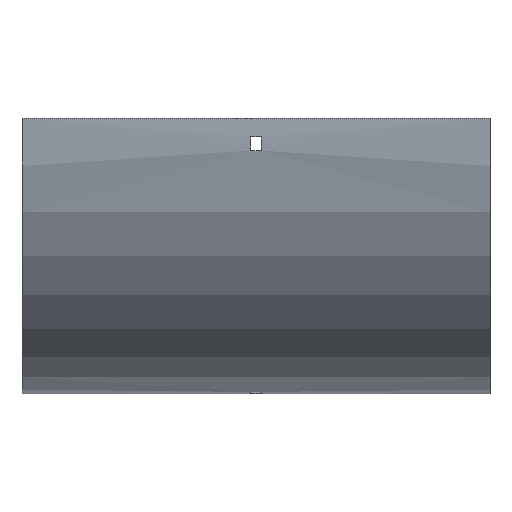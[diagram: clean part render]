
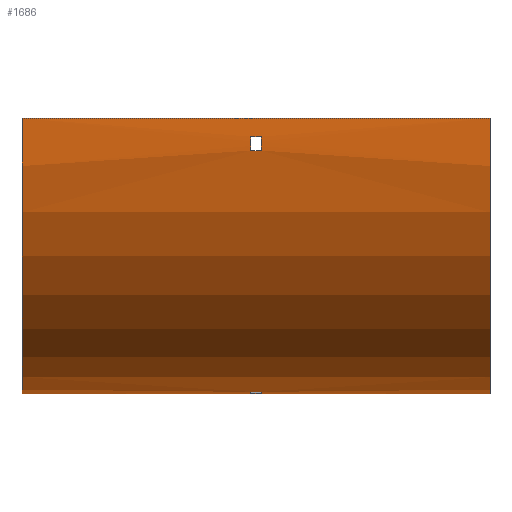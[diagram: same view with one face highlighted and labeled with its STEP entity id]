
A CAD part, front view. The second image highlights one B-rep face of the part: STEP entity #1686.
In plain terms, the highlighted cylindrical face has radius 179 mm (diameter 358 mm), a partial arc.
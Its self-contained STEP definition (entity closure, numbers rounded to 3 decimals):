
#15 = EDGE_CURVE ( 'NONE', #1635, #1401, #1073, .T. ) ;
#23 = CYLINDRICAL_SURFACE ( 'NONE', #1195, 179. ) ;
#27 = DIRECTION ( 'NONE',  ( 1., 0., 0. ) ) ;
#40 = EDGE_CURVE ( 'NONE', #185, #1682, #785, .T. ) ;
#56 = VECTOR ( 'NONE', #1200, 1000. ) ;
#93 = DIRECTION ( 'NONE',  ( -1., 0., 0. ) ) ;
#104 = CARTESIAN_POINT ( 'NONE',  ( -152., 100., 0. ) ) ;
#166 = EDGE_CURVE ( 'NONE', #1567, #539, #811, .T. ) ;
#173 = EDGE_LOOP ( 'NONE', ( #213, #388, #393, #1592 ) ) ;
#185 = VERTEX_POINT ( 'NONE', #1476 ) ;
#213 = ORIENTED_EDGE ( 'NONE', *, *, #1559, .F. ) ;
#236 = ORIENTED_EDGE ( 'NONE', *, *, #40, .T. ) ;
#240 = LINE ( 'NONE', #507, #268 ) ;
#249 = CARTESIAN_POINT ( 'NONE',  ( 152., 100., 0. ) ) ;
#252 = EDGE_CURVE ( 'NONE', #491, #919, #240, .T. ) ;
#264 = CARTESIAN_POINT ( 'NONE',  ( 3.25, 100., 0. ) ) ;
#268 = VECTOR ( 'NONE', #1137, 1000. ) ;
#280 = LINE ( 'NONE', #564, #56 ) ;
#294 = VECTOR ( 'NONE', #1599, 1000. ) ;
#308 = DIRECTION ( 'NONE',  ( 0., 0., 1. ) ) ;
#336 = EDGE_LOOP ( 'NONE', ( #1406, #891, #1658, #236 ) ) ;
#337 = VERTEX_POINT ( 'NONE', #1542 ) ;
#347 = DIRECTION ( 'NONE',  ( 0., 0., -1. ) ) ;
#349 = DIRECTION ( 'NONE',  ( 0., 0., 1. ) ) ;
#388 = ORIENTED_EDGE ( 'NONE', *, *, #15, .F. ) ;
#392 = LINE ( 'NONE', #1436, #1114 ) ;
#393 = ORIENTED_EDGE ( 'NONE', *, *, #647, .F. ) ;
#396 = CARTESIAN_POINT ( 'NONE',  ( 152., 79., -177.764 ) ) ;
#412 = ORIENTED_EDGE ( 'NONE', *, *, #753, .T. ) ;
#413 = DIRECTION ( 'NONE',  ( 0., 1., 0. ) ) ;
#416 = DIRECTION ( 'NONE',  ( 0., 0., 1. ) ) ;
#450 = EDGE_CURVE ( 'NONE', #337, #1183, #1280, .T. ) ;
#452 = CARTESIAN_POINT ( 'NONE',  ( 3.25, 79., -177.764 ) ) ;
#491 = VERTEX_POINT ( 'NONE', #565 ) ;
#507 = CARTESIAN_POINT ( 'NONE',  ( 152., 100., -179. ) ) ;
#510 = CARTESIAN_POINT ( 'NONE',  ( 3.25, -77.764, -21. ) ) ;
#534 = CARTESIAN_POINT ( 'NONE',  ( -3.25, 100., 0. ) ) ;
#539 = VERTEX_POINT ( 'NONE', #1109 ) ;
#554 = CARTESIAN_POINT ( 'NONE',  ( -152., -79., 0. ) ) ;
#564 = CARTESIAN_POINT ( 'NONE',  ( 152., -77.764, -21. ) ) ;
#565 = CARTESIAN_POINT ( 'NONE',  ( 152., 100., -179. ) ) ;
#571 = VECTOR ( 'NONE', #677, 1000. ) ;
#573 = FACE_BOUND ( 'NONE', #173, .T. ) ;
#574 = CIRCLE ( 'NONE', #1086, 179. ) ;
#590 = CARTESIAN_POINT ( 'NONE',  ( -152., 100., -179. ) ) ;
#609 = EDGE_CURVE ( 'NONE', #185, #491, #1525, .T. ) ;
#625 = DIRECTION ( 'NONE',  ( 1., 0., 0. ) ) ;
#646 = CARTESIAN_POINT ( 'NONE',  ( 152., 88., -178.597 ) ) ;
#647 = EDGE_CURVE ( 'NONE', #1660, #1635, #574, .T. ) ;
#653 = VERTEX_POINT ( 'NONE', #1546 ) ;
#677 = DIRECTION ( 'NONE',  ( -1., 0., 0. ) ) ;
#686 = CARTESIAN_POINT ( 'NONE',  ( -3.25, -77.764, -21. ) ) ;
#738 = AXIS2_PLACEMENT_3D ( 'NONE', #264, #27, #1063 ) ;
#748 = CARTESIAN_POINT ( 'NONE',  ( -3.25, 79., -177.764 ) ) ;
#753 = EDGE_CURVE ( 'NONE', #539, #337, #392, .T. ) ;
#774 = LINE ( 'NONE', #646, #1497 ) ;
#785 = LINE ( 'NONE', #1308, #571 ) ;
#811 = CIRCLE ( 'NONE', #1083, 179. ) ;
#827 = DIRECTION ( 'NONE',  ( -1., 0., 0. ) ) ;
#831 = ORIENTED_EDGE ( 'NONE', *, *, #450, .T. ) ;
#843 = CIRCLE ( 'NONE', #1695, 179. ) ;
#891 = ORIENTED_EDGE ( 'NONE', *, *, #252, .F. ) ;
#893 = DIRECTION ( 'NONE',  ( 1., 0., 0. ) ) ;
#919 = VERTEX_POINT ( 'NONE', #590 ) ;
#950 = EDGE_LOOP ( 'NONE', ( #1393, #1496, #412, #831 ) ) ;
#999 = CARTESIAN_POINT ( 'NONE',  ( 3.25, 100., 0. ) ) ;
#1014 = AXIS2_PLACEMENT_3D ( 'NONE', #534, #1050, #413 ) ;
#1031 = EDGE_CURVE ( 'NONE', #1682, #919, #843, .T. ) ;
#1050 = DIRECTION ( 'NONE',  ( 1., 0., 0. ) ) ;
#1063 = DIRECTION ( 'NONE',  ( 0., 0., -1. ) ) ;
#1073 = LINE ( 'NONE', #396, #294 ) ;
#1083 = AXIS2_PLACEMENT_3D ( 'NONE', #1260, #1359, #308 ) ;
#1086 = AXIS2_PLACEMENT_3D ( 'NONE', #999, #93, #349 ) ;
#1099 = FACE_BOUND ( 'NONE', #950, .T. ) ;
#1109 = CARTESIAN_POINT ( 'NONE',  ( -3.25, -78.597, -12. ) ) ;
#1114 = VECTOR ( 'NONE', #1167, 1000. ) ;
#1137 = DIRECTION ( 'NONE',  ( -1., 0., 0. ) ) ;
#1166 = DIRECTION ( 'NONE',  ( 1., 0., 0. ) ) ;
#1167 = DIRECTION ( 'NONE',  ( 1., 0., 0. ) ) ;
#1183 = VERTEX_POINT ( 'NONE', #510 ) ;
#1188 = CARTESIAN_POINT ( 'NONE',  ( 3.25, 88., -178.597 ) ) ;
#1195 = AXIS2_PLACEMENT_3D ( 'NONE', #1448, #827, #416 ) ;
#1200 = DIRECTION ( 'NONE',  ( -1., 0., 0. ) ) ;
#1212 = EDGE_CURVE ( 'NONE', #653, #1660, #774, .T. ) ;
#1259 = DIRECTION ( 'NONE',  ( 0., 0., -1. ) ) ;
#1260 = CARTESIAN_POINT ( 'NONE',  ( -3.25, 100., 0. ) ) ;
#1280 = CIRCLE ( 'NONE', #738, 179. ) ;
#1308 = CARTESIAN_POINT ( 'NONE',  ( 152., -79., 0. ) ) ;
#1359 = DIRECTION ( 'NONE',  ( -1., 0., 0. ) ) ;
#1393 = ORIENTED_EDGE ( 'NONE', *, *, #1608, .T. ) ;
#1401 = VERTEX_POINT ( 'NONE', #748 ) ;
#1406 = ORIENTED_EDGE ( 'NONE', *, *, #1031, .T. ) ;
#1436 = CARTESIAN_POINT ( 'NONE',  ( 152., -78.597, -12. ) ) ;
#1448 = CARTESIAN_POINT ( 'NONE',  ( 152., 100., 0. ) ) ;
#1476 = CARTESIAN_POINT ( 'NONE',  ( 152., -79., 0. ) ) ;
#1496 = ORIENTED_EDGE ( 'NONE', *, *, #166, .T. ) ;
#1497 = VECTOR ( 'NONE', #1166, 1000. ) ;
#1525 = CIRCLE ( 'NONE', #1580, 179. ) ;
#1530 = CIRCLE ( 'NONE', #1014, 179. ) ;
#1542 = CARTESIAN_POINT ( 'NONE',  ( 3.25, -78.597, -12. ) ) ;
#1546 = CARTESIAN_POINT ( 'NONE',  ( -3.25, 88., -178.597 ) ) ;
#1559 = EDGE_CURVE ( 'NONE', #1401, #653, #1530, .T. ) ;
#1567 = VERTEX_POINT ( 'NONE', #686 ) ;
#1580 = AXIS2_PLACEMENT_3D ( 'NONE', #249, #625, #1259 ) ;
#1592 = ORIENTED_EDGE ( 'NONE', *, *, #1212, .F. ) ;
#1597 = FACE_OUTER_BOUND ( 'NONE', #336, .T. ) ;
#1599 = DIRECTION ( 'NONE',  ( -1., 0., 0. ) ) ;
#1608 = EDGE_CURVE ( 'NONE', #1183, #1567, #280, .T. ) ;
#1635 = VERTEX_POINT ( 'NONE', #452 ) ;
#1658 = ORIENTED_EDGE ( 'NONE', *, *, #609, .F. ) ;
#1660 = VERTEX_POINT ( 'NONE', #1188 ) ;
#1682 = VERTEX_POINT ( 'NONE', #554 ) ;
#1686 = ADVANCED_FACE ( 'NONE', ( #1597, #1099, #573 ), #23, .T. ) ;
#1695 = AXIS2_PLACEMENT_3D ( 'NONE', #104, #893, #347 ) ;
